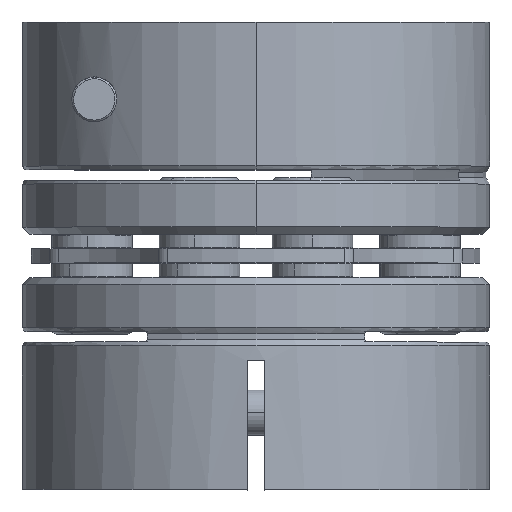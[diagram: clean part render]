
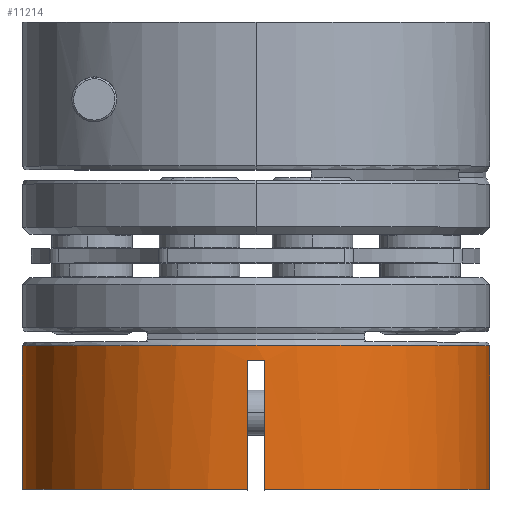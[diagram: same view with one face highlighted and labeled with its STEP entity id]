
A CAD part, top view. The second image highlights one B-rep face of the part: STEP entity #11214.
In plain terms, the highlighted cylindrical face has radius 13 mm (diameter 26 mm), a partial arc.
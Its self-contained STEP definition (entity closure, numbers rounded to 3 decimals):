
#54 = DIRECTION ( 'NONE',  ( 0., -1., 0. ) ) ;
#154 = CIRCLE ( 'NONE', #20213, 13. ) ;
#681 = ORIENTED_EDGE ( 'NONE', *, *, #5649, .F. ) ;
#804 = CARTESIAN_POINT ( 'NONE',  ( 1.755, -26.289, 0. ) ) ;
#1254 = DIRECTION ( 'NONE',  ( 0., -1., 0. ) ) ;
#1302 = CIRCLE ( 'NONE', #3146, 13. ) ;
#1475 = EDGE_CURVE ( 'NONE', #7929, #9721, #154, .T. ) ;
#1565 = CYLINDRICAL_SURFACE ( 'NONE', #18595, 13. ) ;
#1782 = CARTESIAN_POINT ( 'NONE',  ( 1.755, -56.94, 0. ) ) ;
#2019 = EDGE_LOOP ( 'NONE', ( #6869, #18145, #10603, #6557, #12109, #681, #16639, #20975 ) ) ;
#2052 = CARTESIAN_POINT ( 'NONE',  ( 1.922, -19.16, 13.003 ) ) ;
#2525 = VERTEX_POINT ( 'NONE', #16565 ) ;
#3146 = AXIS2_PLACEMENT_3D ( 'NONE', #23079, #54, #12420 ) ;
#3266 = CARTESIAN_POINT ( 'NONE',  ( 1.255, -14.489, 12.99 ) ) ;
#3330 = VERTEX_POINT ( 'NONE', #8838 ) ;
#3414 = DIRECTION ( 'NONE',  ( 0., 1., 0. ) ) ;
#3908 = EDGE_CURVE ( 'NONE', #13135, #3330, #12867, .T. ) ;
#3978 = LINE ( 'NONE', #8424, #18732 ) ;
#4705 = CARTESIAN_POINT ( 'NONE',  ( -11.245, -18.289, 0. ) ) ;
#4983 = DIRECTION ( 'NONE',  ( 0., -1., 0. ) ) ;
#5649 = EDGE_CURVE ( 'NONE', #15259, #6839, #13481, .T. ) ;
#5817 = EDGE_CURVE ( 'NONE', #2525, #7929, #15150, .T. ) ;
#6557 = ORIENTED_EDGE ( 'NONE', *, *, #5817, .F. ) ;
#6839 = VERTEX_POINT ( 'NONE', #16976 ) ;
#6869 = ORIENTED_EDGE ( 'NONE', *, *, #3908, .F. ) ;
#7915 = DIRECTION ( 'NONE',  ( -1., 0., 0. ) ) ;
#7929 = VERTEX_POINT ( 'NONE', #4705 ) ;
#8424 = CARTESIAN_POINT ( 'NONE',  ( 2.255, -14.489, 12.99 ) ) ;
#8775 = CARTESIAN_POINT ( 'NONE',  ( 1.255, -19.154, 12.99 ) ) ;
#8838 = CARTESIAN_POINT ( 'NONE',  ( 2.255, -26.289, 12.99 ) ) ;
#8931 = CARTESIAN_POINT ( 'NONE',  ( 2.255, -19.154, 12.99 ) ) ;
#9046 = DIRECTION ( 'NONE',  ( 0., 1., 0. ) ) ;
#9656 = CARTESIAN_POINT ( 'NONE',  ( 14.755, -18.289, 0. ) ) ;
#9721 = VERTEX_POINT ( 'NONE', #9656 ) ;
#9827 = B_SPLINE_CURVE_WITH_KNOTS ( 'NONE', 3,
 ( #16064, #23072, #2052, #8931 ),
 .UNSPECIFIED., .F., .F.,
 ( 4, 4 ),
 ( 0., 0.001 ),
 .UNSPECIFIED. ) ;
#10597 = DIRECTION ( 'NONE',  ( 0., -1., 0. ) ) ;
#10603 = ORIENTED_EDGE ( 'NONE', *, *, #1475, .F. ) ;
#10905 = EDGE_CURVE ( 'NONE', #13135, #9721, #12970, .T. ) ;
#11214 = ADVANCED_FACE ( 'NONE', ( #13265 ), #1565, .T. ) ;
#11637 = EDGE_CURVE ( 'NONE', #15259, #15644, #9827, .T. ) ;
#11795 = VECTOR ( 'NONE', #10597, 1000. ) ;
#12109 = ORIENTED_EDGE ( 'NONE', *, *, #21860, .F. ) ;
#12420 = DIRECTION ( 'NONE',  ( 1., 0., 0. ) ) ;
#12867 = CIRCLE ( 'NONE', #19336, 13. ) ;
#12970 = LINE ( 'NONE', #22559, #19385 ) ;
#13135 = VERTEX_POINT ( 'NONE', #19247 ) ;
#13265 = FACE_OUTER_BOUND ( 'NONE', #2019, .T. ) ;
#13481 = LINE ( 'NONE', #3266, #11795 ) ;
#13513 = EDGE_CURVE ( 'NONE', #15644, #3330, #3978, .T. ) ;
#13737 = VECTOR ( 'NONE', #9046, 1000. ) ;
#14985 = CARTESIAN_POINT ( 'NONE',  ( 1.755, -18.289, 0. ) ) ;
#15150 = LINE ( 'NONE', #19695, #13737 ) ;
#15259 = VERTEX_POINT ( 'NONE', #8775 ) ;
#15267 = CARTESIAN_POINT ( 'NONE',  ( 2.255, -19.154, 12.99 ) ) ;
#15644 = VERTEX_POINT ( 'NONE', #15267 ) ;
#16064 = CARTESIAN_POINT ( 'NONE',  ( 1.255, -19.154, 12.99 ) ) ;
#16565 = CARTESIAN_POINT ( 'NONE',  ( -11.245, -26.289, 0. ) ) ;
#16639 = ORIENTED_EDGE ( 'NONE', *, *, #11637, .T. ) ;
#16768 = DIRECTION ( 'NONE',  ( 0., 1., 0. ) ) ;
#16976 = CARTESIAN_POINT ( 'NONE',  ( 1.255, -26.289, 12.99 ) ) ;
#17823 = DIRECTION ( 'NONE',  ( -1., 0., 0. ) ) ;
#18145 = ORIENTED_EDGE ( 'NONE', *, *, #10905, .T. ) ;
#18595 = AXIS2_PLACEMENT_3D ( 'NONE', #1782, #3414, #17823 ) ;
#18732 = VECTOR ( 'NONE', #1254, 1000. ) ;
#19247 = CARTESIAN_POINT ( 'NONE',  ( 14.755, -26.289, 0. ) ) ;
#19336 = AXIS2_PLACEMENT_3D ( 'NONE', #804, #4983, #20320 ) ;
#19385 = VECTOR ( 'NONE', #22262, 1000. ) ;
#19695 = CARTESIAN_POINT ( 'NONE',  ( -11.245, -56.94, 0. ) ) ;
#20213 = AXIS2_PLACEMENT_3D ( 'NONE', #14985, #16768, #7915 ) ;
#20320 = DIRECTION ( 'NONE',  ( 1., 0., 0. ) ) ;
#20975 = ORIENTED_EDGE ( 'NONE', *, *, #13513, .T. ) ;
#21860 = EDGE_CURVE ( 'NONE', #6839, #2525, #1302, .T. ) ;
#22262 = DIRECTION ( 'NONE',  ( 0., 1., 0. ) ) ;
#22559 = CARTESIAN_POINT ( 'NONE',  ( 14.755, -56.94, 0. ) ) ;
#23072 = CARTESIAN_POINT ( 'NONE',  ( 1.589, -19.16, 13.003 ) ) ;
#23079 = CARTESIAN_POINT ( 'NONE',  ( 1.755, -26.289, 0. ) ) ;
